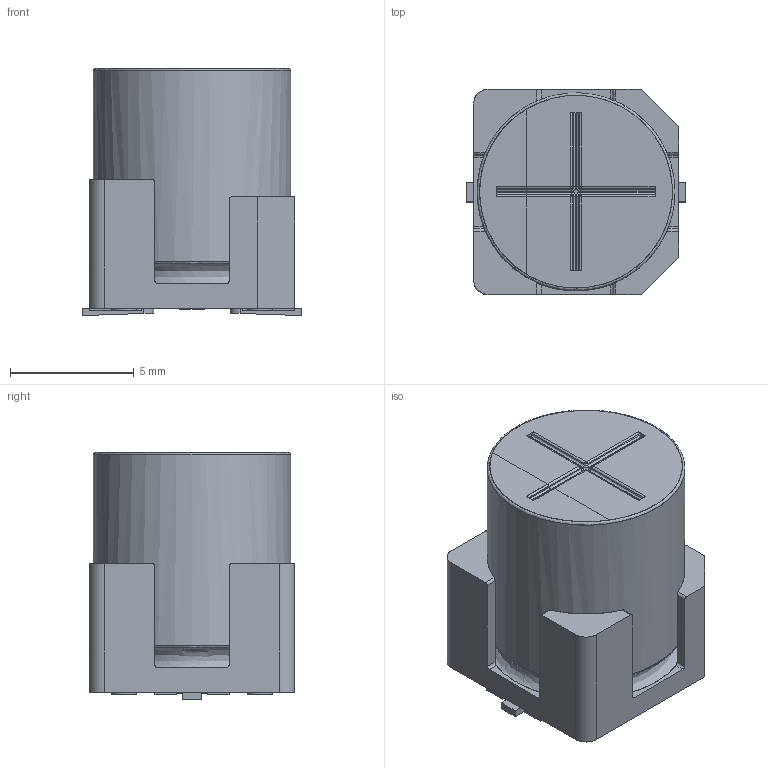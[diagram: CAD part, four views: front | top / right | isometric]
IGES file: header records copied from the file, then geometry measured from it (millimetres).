
Start section: JAMA-IS VERSION  1.0
Bounding box: 8.9 x 8.3 x 10 mm (x, y, z)
Surface area: 690.8 mm2 (no closed solid volume)
Topology: 0 solids, 0 shells, 161 faces, 1445 edges, 1427 vertices
Faces by surface type: bspline 161
